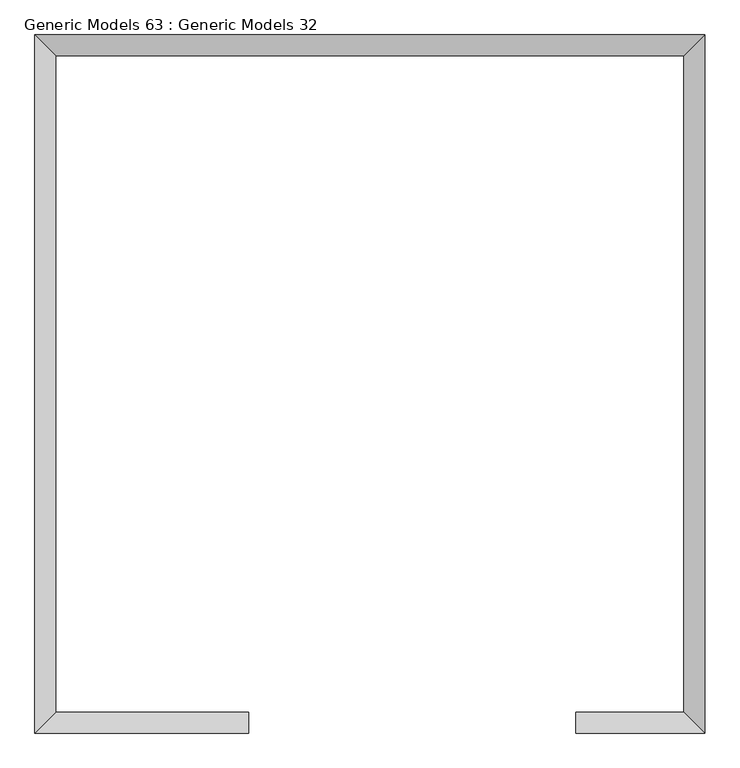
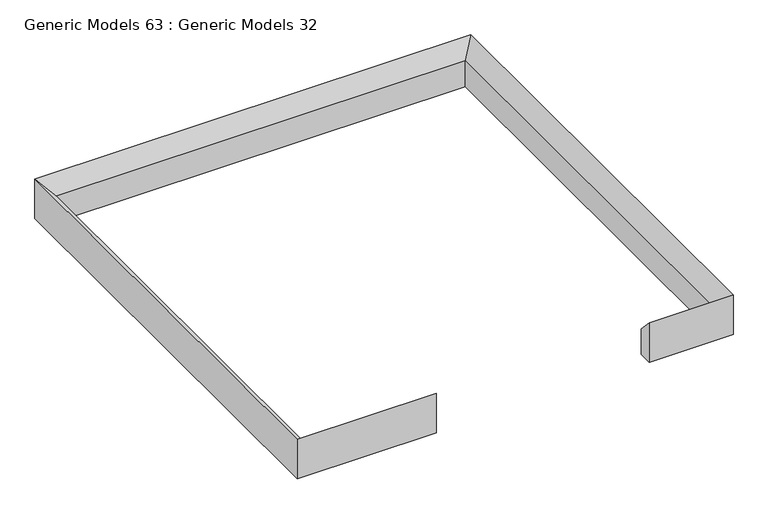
"""IFC4 building model written with IfcOpenShell, lengths in millimetres: proxy geometry, Generic Models 63 : Generic Models 32."""

from ifc_helpers import new_model, si_unit, origin, place, context, project, spatial, faceted_brep, source, transform, mapped, element, save


def generic_models_63_generic_models_32_eed390c8(model_context):
    return source(origin(), model_context, "Body", "Brep", [
        faceted_brep([(-120677.3747667, 15357.4703267, 44470.0), (-120677.3747667, 15357.4703267, 44170.0), (-120677.3747667, 20057.4925063, 44170.0), (-120677.3747667, 20057.4925063, 44470.0), (-120827.3747667, 15207.4703267, 44630.0), (-120827.3747667, 20207.4925063, 44630.0), (-120827.3747667, 15207.4703267, 44170.0), (-120827.3747667, 20207.4925063, 44170.0), (-116177.3747667, 20057.4925063, 44170.0), (-116177.3747667, 20057.4925063, 44470.0), (-116027.3747667, 20207.4925063, 44630.0), (-116027.3747667, 20207.4925063, 44170.0), (-119294.2576788, 15357.4703267, 44170.0), (-119294.2576788, 15357.4703267, 44470.0), (-119294.2576788, 15207.4703267, 44630.0), (-119294.2576788, 15207.4703267, 44170.0), (-116950.5917799, 15357.4703267, 44170.0), (-116950.5917799, 15207.4703267, 44170.0), (-116950.5917799, 15207.4703267, 44630.0), (-116950.5917799, 15357.4703267, 44470.0), (-116027.3747667, 15207.4703267, 44170.0), (-116177.3747667, 15357.4703267, 44170.0), (-116177.3747667, 15357.4703267, 44470.0), (-116027.3747667, 15207.4703267, 44630.0)], [[[0, 1, 2, 3]], [[4, 0, 3, 5]], [[6, 4, 5, 7]], [[3, 2, 8, 9]], [[5, 3, 9, 10]], [[7, 5, 10, 11]], [[12, 13, 14, 15]], [[16, 17, 18, 19]], [[13, 12, 1, 0]], [[14, 13, 0, 4]], [[15, 14, 4, 6]], [[12, 15, 6, 7, 11, 20, 17, 16, 21, 8, 2, 1]], [[9, 8, 21, 22]], [[10, 9, 22, 23]], [[11, 10, 23, 20]], [[22, 21, 16, 19]], [[23, 22, 19, 18]], [[20, 23, 18, 17]]]),
    ])


if __name__ == "__main__":
    model = new_model("IFC4")
    model_context = context("Model", 3, world=origin())
    ifc_project = project(units=[si_unit("LENGTHUNIT", "METRE", prefix="MILLI")], contexts=[model_context])
    site = spatial("IfcSite", under=ifc_project)
    building = spatial("IfcBuilding", under=site)
    placement = place(None, origin())
    generic_models_63_generic_models_32_shape = generic_models_63_generic_models_32_eed390c8(model_context)
    element("IfcBuildingElementProxy", 1, Name="Generic Models 63 : Generic Models 32", ObjectType="Generic Models 63 : Generic Models 32", at=placement, inside=building, context=model_context, shape_type="MappedRepresentation", body=[
        mapped(generic_models_63_generic_models_32_shape, transform((0.0, 0.0, 0.0), x_axis=(1.0, 0.0, 0.0), y_axis=(0.0, 1.0, 0.0), z_axis=(0.0, 0.0, 1.0))),
    ])
    save(model, "model.ifc")
